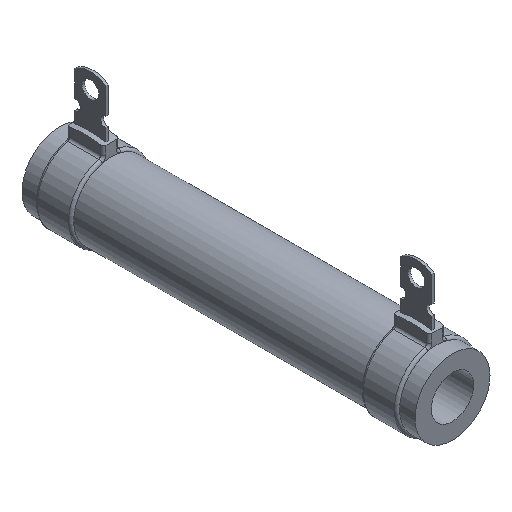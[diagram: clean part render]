
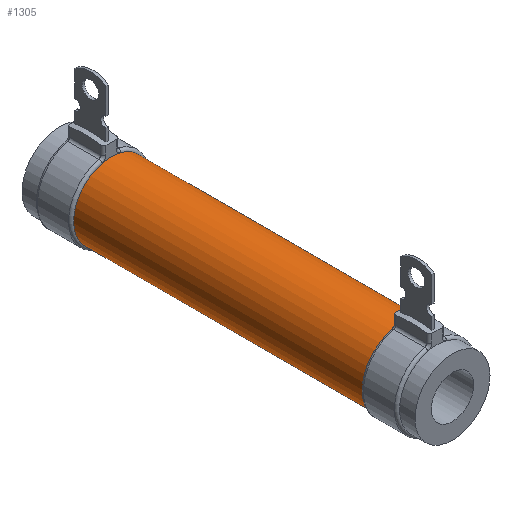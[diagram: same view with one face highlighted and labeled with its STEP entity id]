
A CAD part, isometric view. The second image highlights one B-rep face of the part: STEP entity #1305.
In plain terms, the highlighted cylindrical face has radius 7.25 mm (diameter 14.5 mm), a full revolution.
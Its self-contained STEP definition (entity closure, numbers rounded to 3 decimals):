
#50=CYLINDRICAL_SURFACE($,#1437,7.25);
#71=FACE_BOUND($,#213,.T.);
#129=FACE_OUTER_BOUND($,#212,.T.);
#212=EDGE_LOOP($,(#1016,#1017));
#213=EDGE_LOOP($,(#1018,#1019));
#469=CIRCLE($,#1422,7.25);
#473=CIRCLE($,#1436,7.25);
#474=CIRCLE($,#1438,7.25);
#475=CIRCLE($,#1439,7.25);
#564=VERTEX_POINT($,#2089);
#573=VERTEX_POINT($,#2123);
#580=VERTEX_POINT($,#2182);
#581=VERTEX_POINT($,#2183);
#717=EDGE_CURVE($,#564,#573,#469,.T.);
#733=EDGE_CURVE($,#573,#564,#473,.T.);
#734=EDGE_CURVE($,#580,#581,#474,.T.);
#735=EDGE_CURVE($,#581,#580,#475,.T.);
#1016=ORIENTED_EDGE($,*,*,#734,.T.);
#1017=ORIENTED_EDGE($,*,*,#735,.T.);
#1018=ORIENTED_EDGE($,*,*,#717,.T.);
#1019=ORIENTED_EDGE($,*,*,#733,.T.);
#1305=ADVANCED_FACE($,(#129,#71),#50,.T.);
#1422=AXIS2_PLACEMENT_3D($,#2132,#1720,#1721);
#1436=AXIS2_PLACEMENT_3D($,#2180,#1758,#1759);
#1437=AXIS2_PLACEMENT_3D($,#2181,#1760,#1761);
#1438=AXIS2_PLACEMENT_3D($,#2184,#1762,#1763);
#1439=AXIS2_PLACEMENT_3D($,#2185,#1764,#1765);
#1720=DIRECTION('center_axis',(0.,-1.,0.));
#1721=DIRECTION('ref_axis',(-1.,0.,0.));
#1758=DIRECTION('center_axis',(0.,-1.,0.));
#1759=DIRECTION('ref_axis',(-1.,0.,0.));
#1760=DIRECTION('center_axis',(0.,-1.,0.));
#1761=DIRECTION('ref_axis',(-1.,0.,0.));
#1762=DIRECTION('center_axis',(0.,1.,0.));
#1763=DIRECTION('ref_axis',(-1.,0.,0.));
#1764=DIRECTION('center_axis',(0.,1.,0.));
#1765=DIRECTION('ref_axis',(-1.,0.,0.));
#2089=CARTESIAN_POINT('',(-1.758,66.,7.034));
#2123=CARTESIAN_POINT('',(1.758,66.,7.034));
#2132=CARTESIAN_POINT('Origin',(0.,66.,0.));
#2180=CARTESIAN_POINT('Origin',(0.,66.,0.));
#2181=CARTESIAN_POINT('Origin',(0.,38.,0.));
#2182=CARTESIAN_POINT('',(1.758,10.,7.034));
#2183=CARTESIAN_POINT('',(-1.758,10.,7.034));
#2184=CARTESIAN_POINT('Origin',(0.,10.,0.));
#2185=CARTESIAN_POINT('Origin',(0.,10.,0.));
